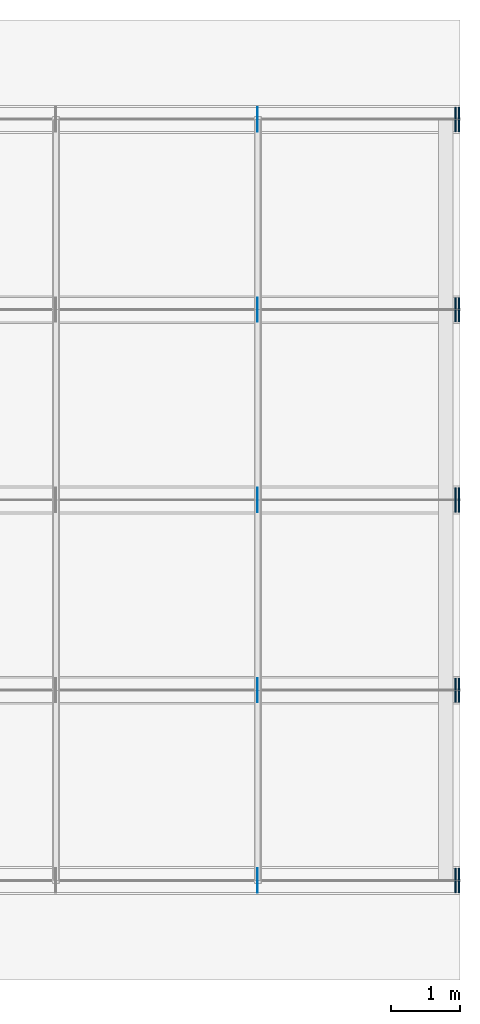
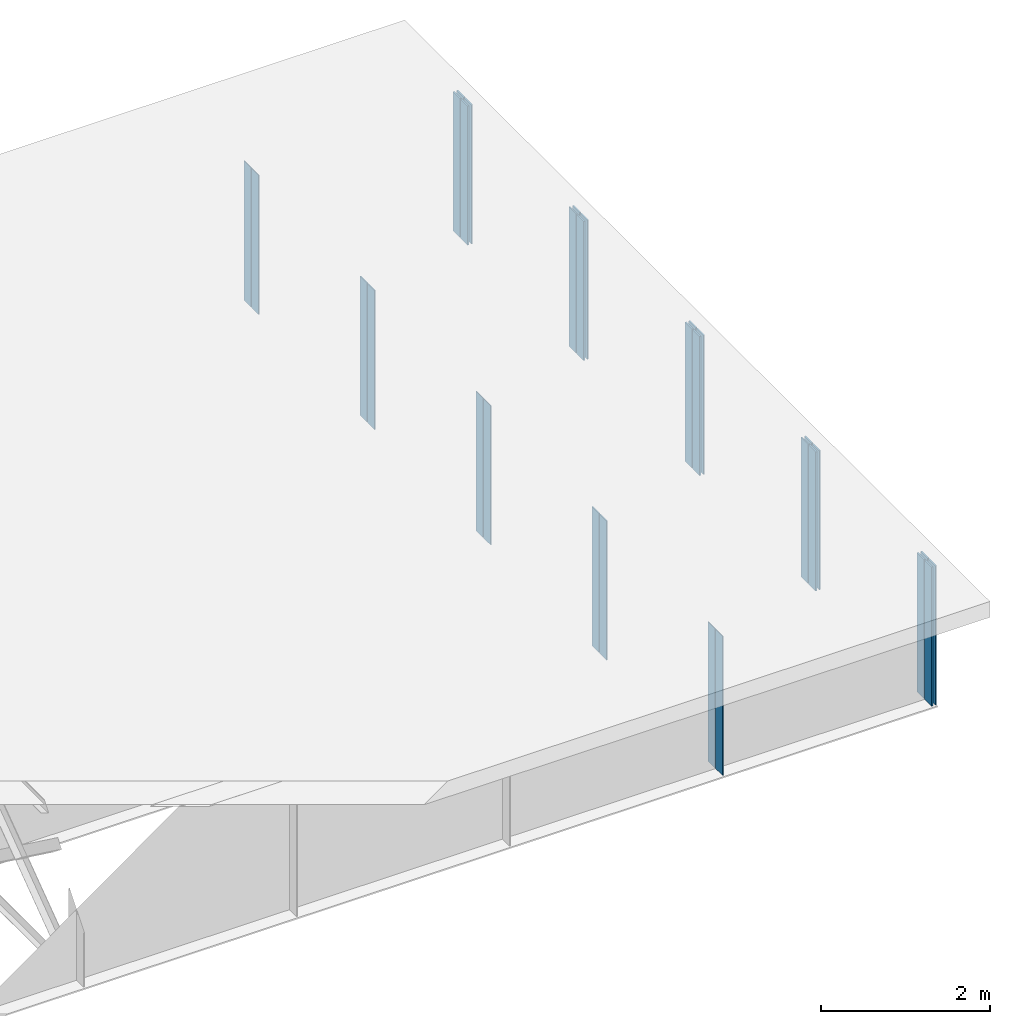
# One storey, part 17 of 17: 30 plates.
"""IFC4 building model written with IfcOpenShell, lengths in metres."""

import ifcopenshell
import ifcopenshell.guid

model = None  # the IFC model being written
_history = None  # IfcOwnerHistory: only IFC2X3 demands one
_inside = {}  # id of a spatial element -> (the spatial element, [elements in it])
_under = {}  # id of a project, library or spatial element -> (it, [spatial elements below it])
_declared = {}  # id of a project -> (the project, [libraries it declares])
_typed = {}  # id of a type object -> (the type object, [elements of that type])
_made_of = {}  # id of a material, layer set ... -> (it, [elements and type objects made of it])


def new_model(schema):
    """Start an empty IFC model of exactly this schema.

    Asked for "IFC4X3", IfcOpenShell would pick the latest addendum, in which some entities
    have other attributes; the version numbers below select the first issue.
    IFC2X3 requires an IfcOwnerHistory on every rooted entity: one is made here for all.
    """
    global model, _history
    if schema == "IFC4X3":
        model = ifcopenshell.file(schema_version=(4, 3, 0, 0))
    else:
        model = ifcopenshell.file(schema=schema)
    _inside.clear()
    _under.clear()
    _declared.clear()
    _typed.clear()
    _made_of.clear()
    _history = None
    if model.schema == "IFC2X3":
        org = make("IfcOrganization", Name="unknown")
        user = make(
            "IfcPersonAndOrganization",
            ThePerson=make("IfcPerson", FamilyName="unknown"),
            TheOrganization=org,
        )
        app = make(
            "IfcApplication",
            ApplicationDeveloper=org,
            Version="unknown",
            ApplicationFullName="unknown",
            ApplicationIdentifier="unknown",
        )
        _history = make(
            "IfcOwnerHistory",
            OwningUser=user,
            OwningApplication=app,
            ChangeAction="ADDED",
            CreationDate=0,
        )
    return model


def make(cls, **values):
    """One entity of the class cls with the attributes given. An attribute that is None is left unset."""
    return model.create_entity(
        cls, **{name: value for name, value in values.items() if value is not None}
    )


def rooted(cls, **values):
    """An entity with a GlobalId (a new one), such as an element, a storey or a relation."""
    return make(cls, GlobalId=ifcopenshell.guid.new(), OwnerHistory=_history, **values)


def si_unit(unit_type, name, prefix=None):
    """IfcSIUnit, for example si_unit("LENGTHUNIT", "METRE", prefix="MILLI")."""
    return make("IfcSIUnit", UnitType=unit_type, Prefix=prefix, Name=name)


def assignment(units):
    """IfcUnitAssignment: the units of a project."""
    return None if units is None else make("IfcUnitAssignment", Units=units)


def point(xyz):
    """IfcCartesianPoint."""
    return None if xyz is None else make("IfcCartesianPoint", Coordinates=xyz)


def direction(xyz):
    """IfcDirection."""
    return None if xyz is None else make("IfcDirection", DirectionRatios=xyz)


def frame(location, z_axis=None, x_axis=None):
    """IfcAxis2Placement3D, a coordinate frame: its origin and axes. An axis left out is left unset."""
    return make(
        "IfcAxis2Placement3D",
        Location=point(location),
        Axis=direction(z_axis),
        RefDirection=direction(x_axis),
    )


def frame_2d(location, x_axis=None):
    """IfcAxis2Placement2D, a coordinate frame in the plane: its origin and x axis."""
    return make(
        "IfcAxis2Placement2D", Location=point(location), RefDirection=direction(x_axis)
    )


def origin():
    """The frame at (0, 0, 0) with its axes left unset."""
    return frame((0.0, 0.0, 0.0))


def origin_with_axes():
    """The frame at (0, 0, 0) with the z axis (0, 0, 1) and the x axis (1, 0, 0) written out."""
    return frame((0.0, 0.0, 0.0), z_axis=(0.0, 0.0, 1.0), x_axis=(1.0, 0.0, 0.0))


def origin_2d_with_axis():
    """The frame at (0, 0) in the plane with the x axis (1, 0) written out."""
    return frame_2d((0.0, 0.0), x_axis=(1.0, 0.0))


def place(relative_to, where):
    """IfcLocalPlacement: puts the frame where relative to a parent placement (None: the world)."""
    return make(
        "IfcLocalPlacement", PlacementRelTo=relative_to, RelativePlacement=where
    )


def context(
    kind, dimensions, precision=None, world=None, true_north=None, identifier=None
):
    """IfcGeometricRepresentationContext, for example the 3D "Model" context."""
    return make(
        "IfcGeometricRepresentationContext",
        ContextIdentifier=identifier,
        ContextType=kind,
        CoordinateSpaceDimension=dimensions,
        Precision=precision,
        WorldCoordinateSystem=world,
        TrueNorth=true_north,
    )


def subcontext(parent, identifier, kind, view, scale=None):
    """IfcGeometricRepresentationSubContext, for example "Body" below "Model"."""
    return make(
        "IfcGeometricRepresentationSubContext",
        ContextIdentifier=identifier,
        ContextType=kind,
        ParentContext=parent,
        TargetScale=scale,
        TargetView=view,
    )


def project(units=None, contexts=None):
    """IfcProject with its units and contexts."""
    return rooted(
        "IfcProject",
        Name="project",
        RepresentationContexts=contexts,
        UnitsInContext=assignment(units),
    )


def spatial(cls, under=None, at=None, **own):
    """A site, building, storey or space (cls), placed at a placement, below another one or the project."""
    s = rooted(cls, ObjectPlacement=at, **own)
    if under is not None:
        _under.setdefault(under.id(), (under, []))[1].append(s)
    return s


def profile(cls, at=None, kind="AREA", **sizes):
    """A parametric profile (cls). Its sizes go by their IFC names, for example OverallWidth=200.0."""
    return make(cls, ProfileType=kind, Position=at, **sizes)


def rectangle(**sizes):
    """IfcRectangleProfileDef."""
    return profile("IfcRectangleProfileDef", **sizes)


def extrude(swept, where, along, depth):
    """IfcExtrudedAreaSolid: the profile swept, set in the frame where, extruded along a direction by depth."""
    return make(
        "IfcExtrudedAreaSolid",
        SweptArea=swept,
        Position=where,
        ExtrudedDirection=direction(along),
        Depth=depth,
    )


def shape(context_of_items, identifier, shape_type, items):
    """IfcShapeRepresentation: the items that make up one representation, for example the "Body"."""
    return make(
        "IfcShapeRepresentation",
        ContextOfItems=context_of_items,
        RepresentationIdentifier=identifier,
        RepresentationType=shape_type,
        Items=items,
    )


def made_of(thing, what):
    """Note that an element or type object is made of a material, layer set ...; save() writes the relation."""
    if what is not None:
        _made_of.setdefault(what.id(), (what, []))[1].append(thing)
    return thing


def element(
    cls,
    number,
    at=None,
    inside=None,
    cuts=None,
    type_object=None,
    material=None,
    context=None,
    identifier="Body",
    shape_type=None,
    held_by="IfcProductDefinitionShape",
    body=None,
    shapes=None,
    **own,
):
    """One element of the class cls, such as IfcWall. Its Tag is "e" and its number.

    at: its placement. inside: the storey or other place that contains it. cuts: it is an
    opening in that element (IfcRelVoidsElement). A single representation is given by context,
    identifier, shape_type and body (its items); several are given by shapes. held_by: the class
    of the entity that holds the representations. save() writes the other relations.
    """
    e = rooted(cls, Tag="e%d" % number, ObjectPlacement=at, **own)
    if body is not None:
        shapes = [shape(context, identifier, shape_type, body)]
    if shapes is not None:
        e.Representation = make(held_by, Representations=shapes)
    if inside is not None:
        _inside.setdefault(inside.id(), (inside, []))[1].append(e)
    if cuts is not None:
        rooted(
            "IfcRelVoidsElement", RelatingBuildingElement=cuts, RelatedOpeningElement=e
        )
    if type_object is not None:
        _typed.setdefault(type_object.id(), (type_object, []))[1].append(e)
    return made_of(e, material)


def aggregate(whole, parts):
    """IfcRelAggregates: a whole, such as a stair, and the parts it consists of."""
    return rooted("IfcRelAggregates", RelatingObject=whole, RelatedObjects=parts)


def save(model, path):
    """Write the relations noted so far, then the file.

    IfcRelAggregates (storeys below a building ...), IfcRelContainedInSpatialStructure (elements
    in a storey), IfcRelDefinesByType, IfcRelAssociatesMaterial and IfcRelDeclares: one each for
    every whole, place, type object, material and project.
    """
    for whole, parts in _under.values():
        aggregate(whole, parts)
    for where, things in _inside.values():
        rooted(
            "IfcRelContainedInSpatialStructure",
            RelatedElements=things,
            RelatingStructure=where,
        )
    for kind, things in _typed.values():
        rooted("IfcRelDefinesByType", RelatedObjects=things, RelatingType=kind)
    for what, things in _made_of.values():
        rooted("IfcRelAssociatesMaterial", RelatedObjects=things, RelatingMaterial=what)
    for by, libraries in _declared.values():
        rooted("IfcRelDeclares", RelatingContext=by, RelatedDefinitions=libraries)
    model.write(path)


model = new_model("IFC4")

# Units and contexts
model_context = context("Model", 3, precision=1e-05, world=origin())
body_context = subcontext(model_context, "Body", "Model", "MODEL_VIEW")
ifc_project = project(units=[si_unit("LENGTHUNIT", "METRE"), si_unit("AREAUNIT", "SQUARE_METRE"), si_unit("VOLUMEUNIT", "CUBIC_METRE"), si_unit("PLANEANGLEUNIT", "RADIAN")], contexts=[model_context])

# Site, building, storey
site_placement = place(None, origin_with_axes())
site = spatial("IfcSite", under=ifc_project, at=site_placement, Name="Default Site")
building_placement = place(site_placement, origin_with_axes())
building = spatial("IfcBuilding", under=site, at=building_placement, Name="Bridge Structure")
storey_placement = place(building_placement, origin_with_axes())
storey = spatial("IfcBuildingStorey", under=building, at=storey_placement, Name="Superstructure")

# Plates
for number, where, z_axis, x_axis, name in (
    (1, (32.076, -5.409, -1.007), (0.0, 0.0, 1.0), (1.0, 0.0, 0.0), "Intermediate Stiffener 1"),
    (2, (32.076, -5.591, -1.007), (0.0, 0.0, 1.0), (1.0, 0.0, 0.0), "Intermediate Stiffener 1"),
):
    element("IfcPlate", number, at=place(storey_placement, frame(where, z_axis=z_axis, x_axis=x_axis)), inside=storey, Name=name, context=body_context, shape_type="SweptSolid", body=[
        extrude(rectangle(XDim=0.012, YDim=0.168, at=origin_2d_with_axis()), origin_with_axes(), (0.0, 0.0, 1.0), 2.014),
    ])
for number, where, z_axis, x_axis, name in (
    (3, (34.99, -5.409, -1.007), (0.0, 0.0, 1.0), (1.0, 0.0, 0.0), "End Stiffener 1"),
    (4, (34.99, -5.591, -1.007), (0.0, 0.0, 1.0), (1.0, 0.0, 0.0), "End Stiffener 1"),
    (5, (34.94, -5.409, -1.007), (0.0, 0.0, 1.0), (1.0, 0.0, 0.0), "End Stiffener 1"),
    (6, (34.94, -5.591, -1.007), (0.0, 0.0, 1.0), (1.0, 0.0, 0.0), "End Stiffener 1"),
):
    element("IfcPlate", number, at=place(storey_placement, frame(where, z_axis=z_axis, x_axis=x_axis)), inside=storey, Name=name, context=body_context, shape_type="SweptSolid", body=[
        extrude(rectangle(XDim=0.02, YDim=0.168, at=origin_2d_with_axis()), origin_with_axes(), (0.0, 0.0, 1.0), 2.014),
    ])
for number, where, z_axis, x_axis, name in (
    (7, (32.076, -2.6590000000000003, -1.007), (0.0, 0.0, 1.0), (1.0, 0.0, 0.0), "Intermediate Stiffener 2"),
    (8, (32.076, -2.841, -1.007), (0.0, 0.0, 1.0), (1.0, 0.0, 0.0), "Intermediate Stiffener 2"),
):
    element("IfcPlate", number, at=place(storey_placement, frame(where, z_axis=z_axis, x_axis=x_axis)), inside=storey, Name=name, context=body_context, shape_type="SweptSolid", body=[
        extrude(rectangle(XDim=0.012, YDim=0.168, at=origin_2d_with_axis()), origin_with_axes(), (0.0, 0.0, 1.0), 2.014),
    ])
for number, where, z_axis, x_axis, name in (
    (9, (34.99, -2.6590000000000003, -1.007), (0.0, 0.0, 1.0), (1.0, 0.0, 0.0), "End Stiffener 2"),
    (10, (34.99, -2.841, -1.007), (0.0, 0.0, 1.0), (1.0, 0.0, 0.0), "End Stiffener 2"),
    (11, (34.94, -2.6590000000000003, -1.007), (0.0, 0.0, 1.0), (1.0, 0.0, 0.0), "End Stiffener 2"),
    (12, (34.94, -2.841, -1.007), (0.0, 0.0, 1.0), (1.0, 0.0, 0.0), "End Stiffener 2"),
):
    element("IfcPlate", number, at=place(storey_placement, frame(where, z_axis=z_axis, x_axis=x_axis)), inside=storey, Name=name, context=body_context, shape_type="SweptSolid", body=[
        extrude(rectangle(XDim=0.02, YDim=0.168, at=origin_2d_with_axis()), origin_with_axes(), (0.0, 0.0, 1.0), 2.014),
    ])
for number, where, z_axis, x_axis, name in (
    (13, (32.076, 0.091, -1.007), (0.0, 0.0, 1.0), (1.0, 0.0, 0.0), "Intermediate Stiffener 3"),
    (14, (32.076, -0.091, -1.007), (0.0, 0.0, 1.0), (1.0, 0.0, 0.0), "Intermediate Stiffener 3"),
):
    element("IfcPlate", number, at=place(storey_placement, frame(where, z_axis=z_axis, x_axis=x_axis)), inside=storey, Name=name, context=body_context, shape_type="SweptSolid", body=[
        extrude(rectangle(XDim=0.012, YDim=0.168, at=origin_2d_with_axis()), origin_with_axes(), (0.0, 0.0, 1.0), 2.014),
    ])
for number, where, z_axis, x_axis, name in (
    (15, (34.99, 0.091, -1.007), (0.0, 0.0, 1.0), (1.0, 0.0, 0.0), "End Stiffener 3"),
    (16, (34.99, -0.091, -1.007), (0.0, 0.0, 1.0), (1.0, 0.0, 0.0), "End Stiffener 3"),
    (17, (34.94, 0.091, -1.007), (0.0, 0.0, 1.0), (1.0, 0.0, 0.0), "End Stiffener 3"),
    (18, (34.94, -0.091, -1.007), (0.0, 0.0, 1.0), (1.0, 0.0, 0.0), "End Stiffener 3"),
):
    element("IfcPlate", number, at=place(storey_placement, frame(where, z_axis=z_axis, x_axis=x_axis)), inside=storey, Name=name, context=body_context, shape_type="SweptSolid", body=[
        extrude(rectangle(XDim=0.02, YDim=0.168, at=origin_2d_with_axis()), origin_with_axes(), (0.0, 0.0, 1.0), 2.014),
    ])
for number, where, z_axis, x_axis, name in (
    (19, (32.076, 2.841, -1.007), (0.0, 0.0, 1.0), (1.0, 0.0, 0.0), "Intermediate Stiffener 4"),
    (20, (32.076, 2.6590000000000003, -1.007), (0.0, 0.0, 1.0), (1.0, 0.0, 0.0), "Intermediate Stiffener 4"),
):
    element("IfcPlate", number, at=place(storey_placement, frame(where, z_axis=z_axis, x_axis=x_axis)), inside=storey, Name=name, context=body_context, shape_type="SweptSolid", body=[
        extrude(rectangle(XDim=0.012, YDim=0.168, at=origin_2d_with_axis()), origin_with_axes(), (0.0, 0.0, 1.0), 2.014),
    ])
for number, where, z_axis, x_axis, name in (
    (21, (34.99, 2.841, -1.007), (0.0, 0.0, 1.0), (1.0, 0.0, 0.0), "End Stiffener 4"),
    (22, (34.99, 2.6590000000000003, -1.007), (0.0, 0.0, 1.0), (1.0, 0.0, 0.0), "End Stiffener 4"),
    (23, (34.94, 2.841, -1.007), (0.0, 0.0, 1.0), (1.0, 0.0, 0.0), "End Stiffener 4"),
    (24, (34.94, 2.6590000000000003, -1.007), (0.0, 0.0, 1.0), (1.0, 0.0, 0.0), "End Stiffener 4"),
):
    element("IfcPlate", number, at=place(storey_placement, frame(where, z_axis=z_axis, x_axis=x_axis)), inside=storey, Name=name, context=body_context, shape_type="SweptSolid", body=[
        extrude(rectangle(XDim=0.02, YDim=0.168, at=origin_2d_with_axis()), origin_with_axes(), (0.0, 0.0, 1.0), 2.014),
    ])
for number, where, z_axis, x_axis, name in (
    (25, (32.076, 5.591, -1.007), (0.0, 0.0, 1.0), (1.0, 0.0, 0.0), "Intermediate Stiffener 5"),
    (26, (32.076, 5.409, -1.007), (0.0, 0.0, 1.0), (1.0, 0.0, 0.0), "Intermediate Stiffener 5"),
):
    element("IfcPlate", number, at=place(storey_placement, frame(where, z_axis=z_axis, x_axis=x_axis)), inside=storey, Name=name, context=body_context, shape_type="SweptSolid", body=[
        extrude(rectangle(XDim=0.012, YDim=0.168, at=origin_2d_with_axis()), origin_with_axes(), (0.0, 0.0, 1.0), 2.014),
    ])
for number, where, z_axis, x_axis, name in (
    (27, (34.99, 5.591, -1.007), (0.0, 0.0, 1.0), (1.0, 0.0, 0.0), "End Stiffener 5"),
    (28, (34.99, 5.409, -1.007), (0.0, 0.0, 1.0), (1.0, 0.0, 0.0), "End Stiffener 5"),
    (29, (34.94, 5.591, -1.007), (0.0, 0.0, 1.0), (1.0, 0.0, 0.0), "End Stiffener 5"),
    (30, (34.94, 5.409, -1.007), (0.0, 0.0, 1.0), (1.0, 0.0, 0.0), "End Stiffener 5"),
):
    element("IfcPlate", number, at=place(storey_placement, frame(where, z_axis=z_axis, x_axis=x_axis)), inside=storey, Name=name, context=body_context, shape_type="SweptSolid", body=[
        extrude(rectangle(XDim=0.02, YDim=0.168, at=origin_2d_with_axis()), origin_with_axes(), (0.0, 0.0, 1.0), 2.014),
    ])

save(model, "model.ifc")
